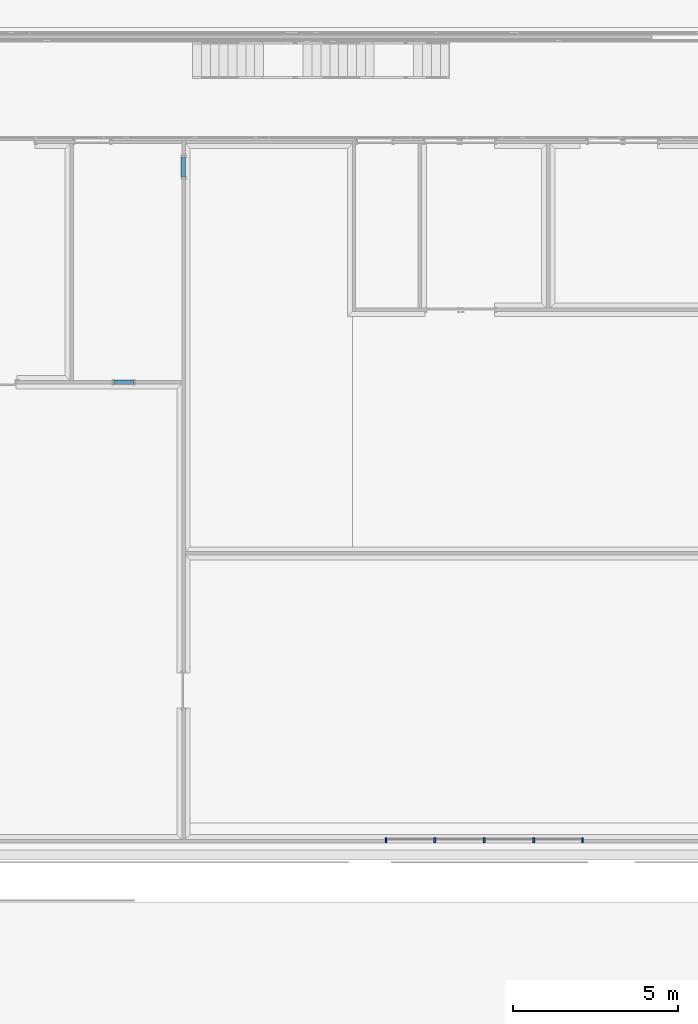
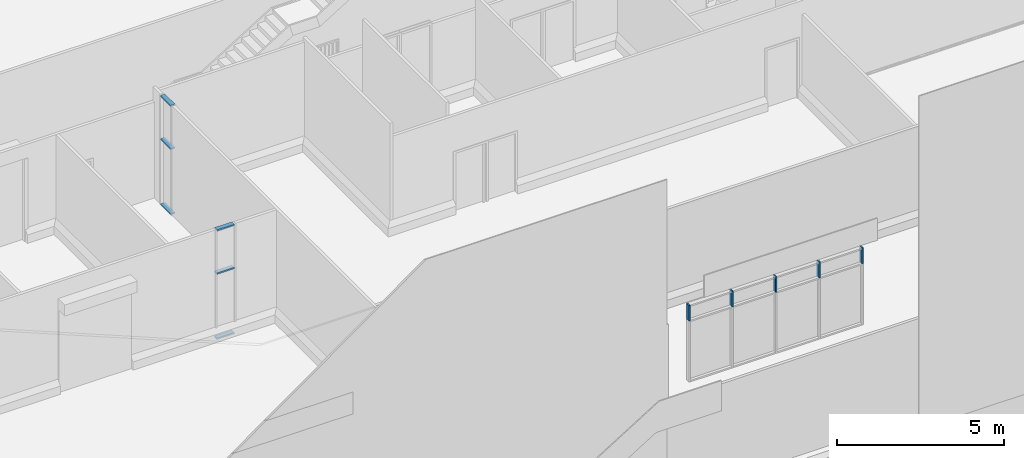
# One storey, part 8 of 64: 11 members, 3 elements without a shape of their own.
"""IFC2X3 building model written with IfcOpenShell, lengths in millimetres."""

from ifc_helpers import new_model, entity, si_unit, converted_unit, derived_unit, direction, frame, frame_2d, origin, origin_2d_with_axis, place, context, subcontext, project, spatial, rectangle, extrude, material, type_object, element, aggregate, save


model = new_model("IFC2X3")

# Units and contexts
model_context = context("Model", 3, precision=0.01, world=origin(), true_north=direction((4.05803320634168e-15, -1.0)))
body_context = subcontext(model_context, "Body", "Model", "MODEL_VIEW")
ifc_project = project(units=[si_unit("LENGTHUNIT", "METRE", prefix="MILLI"), si_unit("AREAUNIT", "SQUARE_METRE"), si_unit("VOLUMEUNIT", "CUBIC_METRE"), converted_unit("PLANEANGLEUNIT", "DEGREE", entity("IfcRatioMeasure", 0.0174532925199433), si_unit("PLANEANGLEUNIT", "RADIAN"), dimensions=[0, 0, 0, 0, 0, 0, 0]), si_unit("MASSUNIT", "GRAM", prefix="KILO"), derived_unit("MASSDENSITYUNIT", [(si_unit("MASSUNIT", "GRAM", prefix="KILO"), 1), (si_unit("LENGTHUNIT", "METRE"), -3)]), si_unit("TIMEUNIT", "SECOND"), si_unit("FREQUENCYUNIT", "HERTZ"), si_unit("THERMODYNAMICTEMPERATUREUNIT", "DEGREE_CELSIUS"), derived_unit("THERMALTRANSMITTANCEUNIT", [(si_unit("MASSUNIT", "GRAM", prefix="KILO"), 1), (si_unit("THERMODYNAMICTEMPERATUREUNIT", "KELVIN"), -1), (si_unit("TIMEUNIT", "SECOND"), -3)]), derived_unit("VOLUMETRICFLOWRATEUNIT", [(si_unit("LENGTHUNIT", "METRE"), 3), (si_unit("TIMEUNIT", "SECOND"), -1)]), si_unit("ELECTRICCURRENTUNIT", "AMPERE"), si_unit("ELECTRICVOLTAGEUNIT", "VOLT"), si_unit("POWERUNIT", "WATT"), si_unit("FORCEUNIT", "NEWTON", prefix="KILO"), si_unit("ILLUMINANCEUNIT", "LUX"), si_unit("LUMINOUSFLUXUNIT", "LUMEN"), si_unit("LUMINOUSINTENSITYUNIT", "CANDELA"), derived_unit("USERDEFINED", [(si_unit("MASSUNIT", "GRAM", prefix="KILO"), -1), (si_unit("LENGTHUNIT", "METRE"), -2), (si_unit("TIMEUNIT", "SECOND"), 3), (si_unit("LUMINOUSFLUXUNIT", "LUMEN"), 1)]), derived_unit("LINEARVELOCITYUNIT", [(si_unit("LENGTHUNIT", "METRE"), 1), (si_unit("TIMEUNIT", "SECOND"), -1)]), si_unit("PRESSUREUNIT", "PASCAL"), derived_unit("USERDEFINED", [(si_unit("LENGTHUNIT", "METRE"), -2), (si_unit("MASSUNIT", "GRAM", prefix="KILO"), 1), (si_unit("TIMEUNIT", "SECOND"), -2)])], contexts=[model_context])

# Site, building, storey
site_placement = place(None, frame((927466.849349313, 583801.882853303, 0.0), z_axis=(0.0, 0.0, 1.0), x_axis=(-1.0, 0.0, 0.0)))
site = spatial("IfcSite", under=ifc_project, at=site_placement, Name="Surface", CompositionType="ELEMENT")
building_placement = place(site_placement, origin())
building = spatial("IfcBuilding", under=site, at=building_placement, CompositionType="ELEMENT")
storey_placement = place(building_placement, frame((0.0, 0.0, 44170.0)))
storey = spatial("IfcBuildingStorey", under=building, at=storey_placement, Name="Ground FFL", CompositionType="ELEMENT", Elevation=44170.0)

# Curtain wall, members
curtain_wall_type = type_object("IfcCurtainWallType", Name="Curtain Wall:Storefront", PredefinedType="NOTDEFINED")
curtain_wall_1_placement = place(storey_placement, frame((0.0, 0.0, -44170.0)))
curtain_wall_1 = element("IfcCurtainWall", 1, at=curtain_wall_1_placement, inside=storey, type_object=curtain_wall_type, Name="Curtain Wall:Storefront", ObjectType="Curtain Wall:Storefront")
ifc_material = material(Name="Aluminium")
member_1_placement = place(curtain_wall_1_placement, frame((0.0, 0.0, 44170.0)))
member_1 = element("IfcMember", 2, at=member_1_placement, material=ifc_material, Name="Curtain Wall:Storefront:8486", ObjectType="Curtain Wall:Storefront:8486", context=body_context, shape_type="SweptSolid", body=[
    extrude(rectangle(XDim=50.000000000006, YDim=150.000000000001, at=frame_2d((-8.66329230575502e-12, 0.0), x_axis=(1.0, 0.0))), frame((-111047.690572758, 36380.9699019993, 6800.0), z_axis=(0.0, 0.0, -1.0), x_axis=(-1.0, 0.0, 0.0)), (0.0, 0.0, 1.0), 580.000000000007),
])
member_2_placement = place(curtain_wall_1_placement, frame((0.0, 0.0, 44170.0)))
member_2 = element("IfcMember", 3, at=member_2_placement, material=ifc_material, Name="Curtain Wall:Storefront:8486", ObjectType="Curtain Wall:Storefront:8486", context=body_context, shape_type="SweptSolid", body=[
    extrude(rectangle(XDim=50.000000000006, YDim=150.000000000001, at=frame_2d((-8.66329230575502e-12, 0.0), x_axis=(1.0, 0.0))), frame((-117016.96508372, 36380.9699019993, 6220.0), z_axis=(0.0, 0.0, 1.0), x_axis=(-1.0, 0.0, 0.0)), (0.0, 0.0, 1.0), 580.000000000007),
])
member_3_placement = place(curtain_wall_1_placement, frame((0.0, 0.0, 44170.0)))
member_3 = element("IfcMember", 4, at=member_3_placement, material=ifc_material, Name="Curtain Wall:Storefront:8486", ObjectType="Curtain Wall:Storefront:8486", context=body_context, shape_type="SweptSolid", body=[
    extrude(rectangle(XDim=49.9999999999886, YDim=150.000000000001, at=frame_2d((-1.732658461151e-11, 0.0), x_axis=(1.0, 0.0))), frame((-112527.509200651, 36380.9699019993, 6220.0), z_axis=(0.0, 0.0, 1.0), x_axis=(-1.0, 0.0, 0.0)), (0.0, 0.0, 1.0), 580.000000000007),
])
member_4_placement = place(curtain_wall_1_placement, frame((0.0, 0.0, 44170.0)))
member_4 = element("IfcMember", 5, at=member_4_placement, material=ifc_material, Name="Curtain Wall:Storefront:8486", ObjectType="Curtain Wall:Storefront:8486", context=body_context, shape_type="SweptSolid", body=[
    extrude(rectangle(XDim=49.9999999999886, YDim=150.000000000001, at=frame_2d((1.732658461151e-11, 0.0), x_axis=(1.0, 0.0))), frame((-114032.327828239, 36380.9699019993, 6220.0), z_axis=(0.0, 0.0, 1.0), x_axis=(-1.0, 0.0, 0.0)), (0.0, 0.0, 1.0), 580.000000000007),
])
member_5_placement = place(curtain_wall_1_placement, frame((0.0, 0.0, 44170.0)))
member_5 = element("IfcMember", 6, at=member_5_placement, material=ifc_material, Name="Curtain Wall:Storefront:8486", ObjectType="Curtain Wall:Storefront:8486", context=body_context, shape_type="SweptSolid", body=[
    extrude(rectangle(XDim=49.9999999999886, YDim=150.000000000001, at=origin_2d_with_axis()), frame((-115537.146455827, 36380.9699019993, 6220.0), z_axis=(0.0, 0.0, 1.0), x_axis=(-1.0, 0.0, 0.0)), (0.0, 0.0, 1.0), 580.000000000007),
])
aggregate(curtain_wall_1, [member_1, member_2, member_3, member_4, member_5])

curtain_wall_2_placement = place(storey_placement, frame((0.0, 0.0, -44170.0)))
curtain_wall_2 = element("IfcCurtainWall", 7, at=curtain_wall_2_placement, inside=storey, type_object=curtain_wall_type, Name="Curtain Wall:Storefront", ObjectType="Curtain Wall:Storefront")
member_6_placement = place(curtain_wall_2_placement, frame((0.0, 0.0, 44170.0)))
member_6 = element("IfcMember", 8, at=member_6_placement, material=ifc_material, Name="Curtain Wall:Storefront:8486", ObjectType="Curtain Wall:Storefront:8486", context=body_context, shape_type="SweptSolid", body=[
    extrude(rectangle(XDim=49.9999999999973, YDim=150.000000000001, at=frame_2d((4.33075797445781e-12, 4.33431068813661e-12), x_axis=(1.0, 0.0))), frame((-102777.937276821, 22457.470326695, 3975.0), z_axis=(-1.0, 0.0, 0.0), x_axis=(0.0, 0.0, -1.0)), (0.0, 0.0, 1.0), 600.000000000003),
])
member_7_placement = place(curtain_wall_2_placement, frame((0.0, 0.0, 44170.0)))
member_7 = element("IfcMember", 9, at=member_7_placement, material=ifc_material, Name="Curtain Wall:Storefront:8486", ObjectType="Curtain Wall:Storefront:8486", context=body_context, shape_type="SweptSolid", body=[
    extrude(rectangle(XDim=49.9999999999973, YDim=150.000000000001, at=frame_2d((4.33075797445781e-12, 4.33431068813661e-12), x_axis=(1.0, 0.0))), frame((-103377.937276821, 22457.470326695, 25.0), z_axis=(1.0, 0.0, 0.0), x_axis=(0.0, 0.0, -1.0)), (0.0, 0.0, 1.0), 600.000000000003),
])
member_8_placement = place(curtain_wall_2_placement, frame((0.0, 0.0, 44170.0)))
member_8 = element("IfcMember", 10, at=member_8_placement, material=ifc_material, Name="Curtain Wall:Storefront:8486", ObjectType="Curtain Wall:Storefront:8486", context=body_context, shape_type="SweptSolid", body=[
    extrude(rectangle(XDim=50.000000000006, YDim=150.000000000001, at=frame_2d((0.0, 4.33431068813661e-12), x_axis=(1.0, 0.0))), frame((-102777.937276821, 22457.470326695, 2400.0), z_axis=(-1.0, 0.0, 0.0), x_axis=(0.0, 0.0, -1.0)), (0.0, 0.0, 1.0), 600.000000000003),
])
aggregate(curtain_wall_2, [member_6, member_7, member_8])

curtain_wall_3_placement = place(storey_placement, frame((0.0, 0.0, -44170.0)))
curtain_wall_3 = element("IfcCurtainWall", 11, at=curtain_wall_3_placement, inside=storey, type_object=curtain_wall_type, Name="Curtain Wall:Storefront", ObjectType="Curtain Wall:Storefront")
member_9_placement = place(curtain_wall_3_placement, frame((0.0, 0.0, 44170.0)))
member_9 = element("IfcMember", 12, at=member_9_placement, material=ifc_material, Name="Curtain Wall:Storefront:8486", ObjectType="Curtain Wall:Storefront:8486", context=body_context, shape_type="SweptSolid", body=[
    extrude(rectangle(XDim=49.9999999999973, YDim=150.000000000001, at=frame_2d((4.33253433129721e-12, 0.0), x_axis=(1.0, 0.0))), frame((-104897.937276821, 16217.4703266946, 3975.0), z_axis=(0.0, -1.0, 0.0), x_axis=(0.0, 0.0, -1.0)), (0.0, 0.0, 1.0), 600.0),
])
member_10_placement = place(curtain_wall_3_placement, frame((0.0, 0.0, 44170.0)))
member_10 = element("IfcMember", 13, at=member_10_placement, material=ifc_material, Name="Curtain Wall:Storefront:8486", ObjectType="Curtain Wall:Storefront:8486", context=body_context, shape_type="SweptSolid", body=[
    extrude(rectangle(XDim=49.9999999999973, YDim=150.000000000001, at=frame_2d((4.33253433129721e-12, 0.0), x_axis=(1.0, 0.0))), frame((-104897.937276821, 15617.4703266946, 25.0), z_axis=(0.0, 1.0, 0.0), x_axis=(0.0, 0.0, -1.0)), (0.0, 0.0, 1.0), 600.0),
])
member_11_placement = place(curtain_wall_3_placement, frame((0.0, 0.0, 44170.0)))
member_11 = element("IfcMember", 14, at=member_11_placement, material=ifc_material, Name="Curtain Wall:Storefront:8486", ObjectType="Curtain Wall:Storefront:8486", context=body_context, shape_type="SweptSolid", body=[
    extrude(rectangle(XDim=50.000000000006, YDim=150.000000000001, at=origin_2d_with_axis()), frame((-104897.937276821, 16217.4703266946, 2400.0), z_axis=(0.0, -1.0, 0.0), x_axis=(0.0, 0.0, -1.0)), (0.0, 0.0, 1.0), 600.0),
])
aggregate(curtain_wall_3, [member_9, member_10, member_11])

save(model, "model.ifc")
